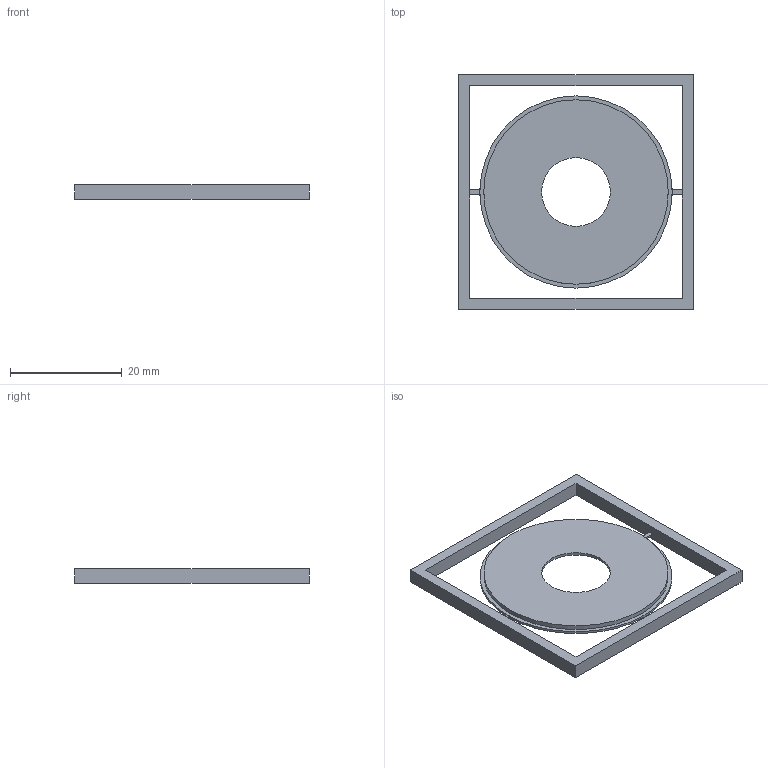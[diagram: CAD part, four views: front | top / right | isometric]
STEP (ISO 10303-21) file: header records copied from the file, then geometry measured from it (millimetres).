
FILE_DESCRIPTION(('FreeCAD Model'),'2;1');
FILE_NAME('Open CASCADE Shape Model','2026-09-22T11:13:16',('FreeCAD'),( 'FreeCAD'),'Open CASCADE STEP processor 7.8','FreeCAD','Unknown');
FILE_SCHEMA(('AUTOMOTIVE_DESIGN { 1 0 10303 214 1 1 1 1 }'));
Length unit declared in the file: millimetre
Products named in the file (1): Open CASCADE STEP translator 7.8 3
Bounding box: 42 x 42 x 2.6 mm (x, y, z)
Volume: 1496.8 mm3; surface area: 3297.5 mm2
Topology: 1 solids, 1 shells, 36 faces, 78 edges, 52 vertices
Faces by surface type: plane 27, cylinder 9
Full cylindrical faces by diameter (mm): 1.7 x4, 12.3 x1, 14.6 x1, 31.6 x1, 33 x1, 34.4 x1
Entity records: 1008 total; most frequent: DIRECTION 176, CARTESIAN_POINT 167, ORIENTED_EDGE 156, EDGE_CURVE 78, AXIS2_PLACEMENT_3D 61, LINE 54, VECTOR 54, VERTEX_POINT 52
